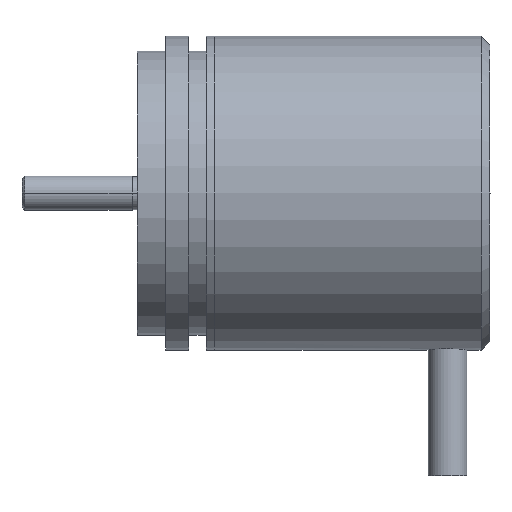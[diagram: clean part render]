
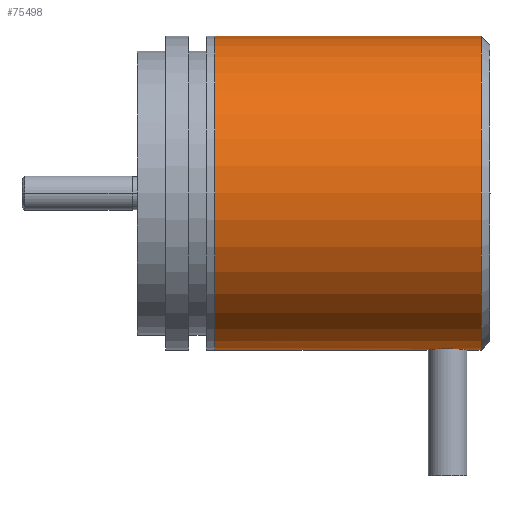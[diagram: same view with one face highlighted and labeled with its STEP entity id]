
A CAD part, top view. The second image highlights one B-rep face of the part: STEP entity #75498.
In plain terms, the highlighted cylindrical face has radius 18.25 mm (diameter 36.5 mm), a partial arc.
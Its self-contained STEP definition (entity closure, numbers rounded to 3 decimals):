
#917 = CARTESIAN_POINT ( 'NONE',  ( 41.11, 3.552, 30.616 ) ) ;
#1382 = AXIS2_PLACEMENT_3D ( 'NONE', #35591, #78267, #41817 ) ;
#4283 = CARTESIAN_POINT ( 'NONE',  ( 43.813, 3.713, 32.113 ) ) ;
#4953 = LINE ( 'NONE', #36112, #52404 ) ;
#5528 = CARTESIAN_POINT ( 'NONE',  ( 45.827, 3.552, 30.616 ) ) ;
#6566 = CARTESIAN_POINT ( 'NONE',  ( 48.469, 21.764, 29.424 ) ) ;
#6652 = ORIENTED_EDGE ( 'NONE', *, *, #39125, .F. ) ;
#7424 = CARTESIAN_POINT ( 'NONE',  ( 41.383, 3.587, 31.066 ) ) ;
#7857 = ORIENTED_EDGE ( 'NONE', *, *, #79479, .T. ) ;
#10386 = CIRCLE ( 'NONE', #1382, 18.25 ) ;
#10613 = LINE ( 'NONE', #64220, #73832 ) ;
#10976 = CARTESIAN_POINT ( 'NONE',  ( 48.469, 3.514, 29.424 ) ) ;
#11313 = CYLINDRICAL_SURFACE ( 'NONE', #42444, 18.25 ) ;
#11960 = CARTESIAN_POINT ( 'NONE',  ( 45.955, 3.534, 30.289 ) ) ;
#12955 = DIRECTION ( 'NONE',  ( 1., 0., 0. ) ) ;
#13505 = EDGE_CURVE ( 'NONE', #49261, #31027, #10613, .T. ) ;
#13772 = CARTESIAN_POINT ( 'NONE',  ( 41.733, 3.626, 31.449 ) ) ;
#15375 = CARTESIAN_POINT ( 'NONE',  ( 43.472, 3.713, 32.114 ) ) ;
#16040 = CARTESIAN_POINT ( 'NONE',  ( 47.431, 3.514, 29.424 ) ) ;
#18156 = CARTESIAN_POINT ( 'NONE',  ( 46.026, 3.524, 30.035 ) ) ;
#18613 = ORIENTED_EDGE ( 'NONE', *, *, #50311, .T. ) ;
#19008 = FACE_OUTER_BOUND ( 'NONE', #30081, .T. ) ;
#19674 = CARTESIAN_POINT ( 'NONE',  ( 40.844, 3.514, 29.424 ) ) ;
#19936 = CARTESIAN_POINT ( 'NONE',  ( 42.153, 3.663, 31.758 ) ) ;
#23964 = CARTESIAN_POINT ( 'NONE',  ( 16.469, 3.514, 29.424 ) ) ;
#24243 = CARTESIAN_POINT ( 'NONE',  ( 46.093, 3.514, 29.601 ) ) ;
#24801 = CARTESIAN_POINT ( 'NONE',  ( 46.093, 3.514, 29.424 ) ) ;
#26003 = CARTESIAN_POINT ( 'NONE',  ( 42.78, 3.702, 32.043 ) ) ;
#27919 = CARTESIAN_POINT ( 'NONE',  ( 16.469, 40.014, 29.424 ) ) ;
#29333 = CARTESIAN_POINT ( 'NONE',  ( 43.472, 3.713, 32.114 ) ) ;
#30081 = EDGE_LOOP ( 'NONE', ( #7857, #69273, #18613, #31369, #31179, #41955, #6652 ) ) ;
#30220 = CARTESIAN_POINT ( 'NONE',  ( 44.792, 3.665, 31.773 ) ) ;
#31027 = VERTEX_POINT ( 'NONE', #16040 ) ;
#31179 = ORIENTED_EDGE ( 'NONE', *, *, #13505, .T. ) ;
#31369 = ORIENTED_EDGE ( 'NONE', *, *, #73622, .T. ) ;
#32004 = CARTESIAN_POINT ( 'NONE',  ( 40.861, 3.516, 29.775 ) ) ;
#32275 = CARTESIAN_POINT ( 'NONE',  ( 43.472, 3.713, 32.114 ) ) ;
#33094 = VERTEX_POINT ( 'NONE', #38194 ) ;
#34450 = LINE ( 'NONE', #10976, #50854 ) ;
#35014 = B_SPLINE_CURVE_WITH_KNOTS ( 'NONE', 3,
 ( #19674, #56594, #32004, #74735, #38202, #917, #44368, #7424, #50591, #13772, #56852, #19936, #62991, #26003, #69012, #32275 ),
 .UNSPECIFIED., .F., .F.,
 ( 4, 2, 2, 2, 2, 2, 2, 4 ),
 ( 0.25, 0.281, 0.312, 0.344, 0.375, 0.406, 0.437, 0.5 ),
 .UNSPECIFIED. ) ;
#35115 = DIRECTION ( 'NONE',  ( 1., 0., 0. ) ) ;
#35591 = CARTESIAN_POINT ( 'NONE',  ( 47.431, 21.764, 29.424 ) ) ;
#36112 = CARTESIAN_POINT ( 'NONE',  ( 48.469, 40.014, 29.424 ) ) ;
#36385 = CARTESIAN_POINT ( 'NONE',  ( 45.446, 3.6, 31.201 ) ) ;
#38194 = CARTESIAN_POINT ( 'NONE',  ( 47.431, 40.014, 29.424 ) ) ;
#38202 = CARTESIAN_POINT ( 'NONE',  ( 40.979, 3.534, 30.291 ) ) ;
#39125 = EDGE_CURVE ( 'NONE', #50421, #33094, #4953, .T. ) ;
#41276 = CARTESIAN_POINT ( 'NONE',  ( 40.844, 3.514, 29.424 ) ) ;
#41817 = DIRECTION ( 'NONE',  ( 0., 1., 0. ) ) ;
#41955 = ORIENTED_EDGE ( 'NONE', *, *, #76576, .T. ) ;
#42311 = DIRECTION ( 'NONE',  ( 1., 0., 0. ) ) ;
#42444 = AXIS2_PLACEMENT_3D ( 'NONE', #6566, #12955, #43825 ) ;
#42576 = CARTESIAN_POINT ( 'NONE',  ( 45.747, 3.563, 30.77 ) ) ;
#43825 = DIRECTION ( 'NONE',  ( 0., 1., 0. ) ) ;
#43881 = B_SPLINE_CURVE_WITH_KNOTS ( 'NONE', 3,
 ( #29333, #4283, #66991, #30220, #73029, #36385, #79041, #42576, #5528, #48813, #11960, #55047, #18156, #61211, #24243, #67253 ),
 .UNSPECIFIED., .F., .F.,
 ( 4, 2, 2, 2, 2, 2, 2, 4 ),
 ( 0.5, 0.562, 0.625, 0.656, 0.687, 0.703, 0.719, 0.75 ),
 .UNSPECIFIED. ) ;
#44368 = CARTESIAN_POINT ( 'NONE',  ( 41.191, 3.563, 30.772 ) ) ;
#47402 = AXIS2_PLACEMENT_3D ( 'NONE', #71803, #35115, #77788 ) ;
#47792 = DIRECTION ( 'NONE',  ( 1., 0., 0. ) ) ;
#47999 = CIRCLE ( 'NONE', #47402, 18.25 ) ;
#48813 = CARTESIAN_POINT ( 'NONE',  ( 45.926, 3.538, 30.373 ) ) ;
#49261 = VERTEX_POINT ( 'NONE', #24801 ) ;
#50311 = EDGE_CURVE ( 'NONE', #71020, #61641, #35014, .T. ) ;
#50421 = VERTEX_POINT ( 'NONE', #27919 ) ;
#50591 = CARTESIAN_POINT ( 'NONE',  ( 41.491, 3.6, 31.201 ) ) ;
#50854 = VECTOR ( 'NONE', #47792, 1000. ) ;
#52404 = VECTOR ( 'NONE', #42311, 1000. ) ;
#53397 = VERTEX_POINT ( 'NONE', #23964 ) ;
#55047 = CARTESIAN_POINT ( 'NONE',  ( 46.005, 3.527, 30.119 ) ) ;
#56594 = CARTESIAN_POINT ( 'NONE',  ( 40.844, 3.514, 29.6 ) ) ;
#56852 = CARTESIAN_POINT ( 'NONE',  ( 41.867, 3.639, 31.562 ) ) ;
#58138 = DIRECTION ( 'NONE',  ( 1., 0., 0. ) ) ;
#61211 = CARTESIAN_POINT ( 'NONE',  ( 46.076, 3.516, 29.776 ) ) ;
#61641 = VERTEX_POINT ( 'NONE', #15375 ) ;
#62991 = CARTESIAN_POINT ( 'NONE',  ( 42.304, 3.674, 31.84 ) ) ;
#64220 = CARTESIAN_POINT ( 'NONE',  ( 48.469, 3.514, 29.424 ) ) ;
#66991 = CARTESIAN_POINT ( 'NONE',  ( 44.159, 3.702, 32.043 ) ) ;
#67253 = CARTESIAN_POINT ( 'NONE',  ( 46.093, 3.514, 29.424 ) ) ;
#69012 = CARTESIAN_POINT ( 'NONE',  ( 43.13, 3.713, 32.114 ) ) ;
#69273 = ORIENTED_EDGE ( 'NONE', *, *, #79577, .T. ) ;
#71020 = VERTEX_POINT ( 'NONE', #41276 ) ;
#71803 = CARTESIAN_POINT ( 'NONE',  ( 16.469, 21.764, 29.424 ) ) ;
#73029 = CARTESIAN_POINT ( 'NONE',  ( 45.083, 3.639, 31.573 ) ) ;
#73622 = EDGE_CURVE ( 'NONE', #61641, #49261, #43881, .T. ) ;
#73832 = VECTOR ( 'NONE', #58138, 1000. ) ;
#74735 = CARTESIAN_POINT ( 'NONE',  ( 40.928, 3.526, 30.121 ) ) ;
#75498 = ADVANCED_FACE ( 'NONE', ( #19008 ), #11313, .T. ) ;
#76576 = EDGE_CURVE ( 'NONE', #31027, #33094, #10386, .T. ) ;
#77788 = DIRECTION ( 'NONE',  ( 0., 1., 0. ) ) ;
#78267 = DIRECTION ( 'NONE',  ( -1., 0., 0. ) ) ;
#79041 = CARTESIAN_POINT ( 'NONE',  ( 45.556, 3.587, 31.064 ) ) ;
#79479 = EDGE_CURVE ( 'NONE', #50421, #53397, #47999, .T. ) ;
#79577 = EDGE_CURVE ( 'NONE', #53397, #71020, #34450, .T. ) ;
